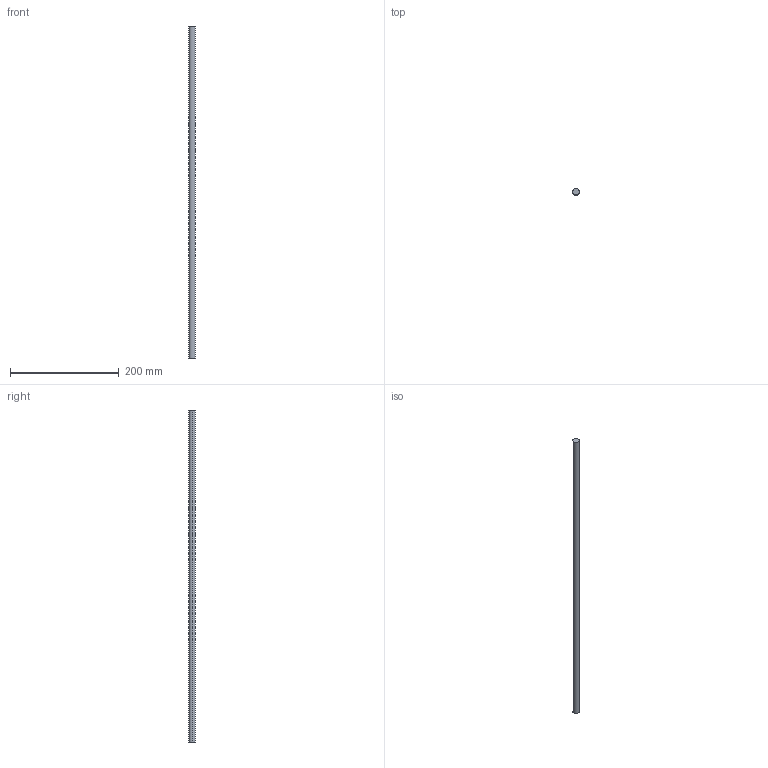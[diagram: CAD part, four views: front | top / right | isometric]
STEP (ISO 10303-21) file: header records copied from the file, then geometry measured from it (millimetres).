
FILE_DESCRIPTION (( 'STEP AP214' ), '1' );
FILE_NAME ('Magic Reling längs - 650.step', '2010-09-07T14:56:18', ( 'grass' ), ( '' ), 'SwSTEP 2.0', 'SolidWorks 2010', '' );
FILE_SCHEMA (( 'AUTOMOTIVE_DESIGN' ));
Length unit declared in the file: millimetre
Products named in the file (1): Magic Reling längs - 650
Bounding box: 12 x 12 x 612 mm (x, y, z)
Volume: 69215.6 mm3; surface area: 23298.1 mm2
Topology: 1 solids, 1 shells, 4 faces, 6 edges, 4 vertices
Faces by surface type: cylinder 2, plane 2
Entity records: 128 total; most frequent: DIRECTION 20, CARTESIAN_POINT 15, ORIENTED_EDGE 12, AXIS2_PLACEMENT_3D 9, EDGE_CURVE 6, ADVANCED_FACE 4, CIRCLE 4, EDGE_LOOP 4
